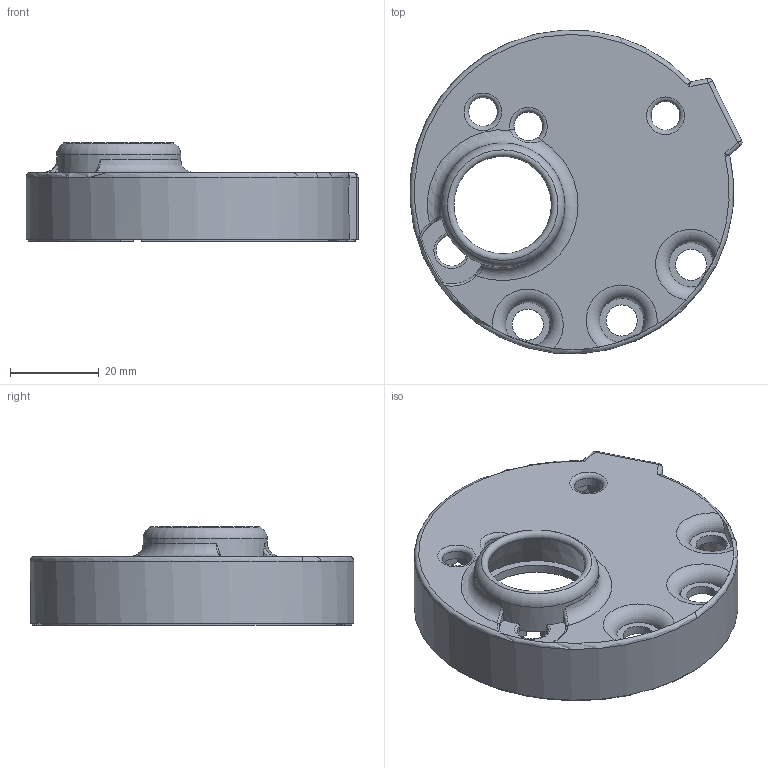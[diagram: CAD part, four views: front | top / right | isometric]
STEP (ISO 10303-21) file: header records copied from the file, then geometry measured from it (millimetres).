
FILE_DESCRIPTION(/* description */ ('STEP AP242 Edition 2','CAx-IF Rec.Pracs.---Representation and Presentation of Product Manufacturing Information (PMI)---4.0---2014-10-13','CAx-IF Rec.Pracs.---3D Tessellated Geometry---0.4---2014-09-14','2;1','CAx-IF Rec.Pracs.---User Defined Attributes---1.5---2016-08-15'),/* implementation_level */ '2;1');
FILE_NAME(/* name */ 'Controller - right shell top cover',/* time_stamp */ '2026-11-08T20:41:02Z',/* author */ (''),/* organization */ (''),/* preprocessor_version */ 'ST-DEVELOPER v20',/* originating_system */ 'ONSHAPE BY PTC INC, 1.223',/* authorisation */ ' ');
FILE_SCHEMA (('AP242_MANAGED_MODEL_BASED_3D_ENGINEERING_MIM_LF { 1 0 10303 442 3 1 4 }'));
Length unit declared in the file: metre
Products named in the file (1): right shell top cover
Bounding box: 74.82 x 72.9 x 22.25 mm (x, y, z)
Volume: 19200.9 mm3; surface area: 16186.4 mm2
Topology: 1 solids, 1 shells, 150 faces, 386 edges, 243 vertices
Faces by surface type: plane 79, cylinder 51, torus 14, bspline 3, sphere 2, cone 1
Full cylindrical faces by diameter (mm): 2 x6, 5 x6, 6.5 x3, 7 x3, 28 x1
Entity records: 4551 total; most frequent: CARTESIAN_POINT 942, DIRECTION 763, ORIENTED_EDGE 708, EDGE_CURVE 354, AXIS2_PLACEMENT_3D 291, VERTEX_POINT 237, EDGE_LOOP 199, FACE_BOUND 199
